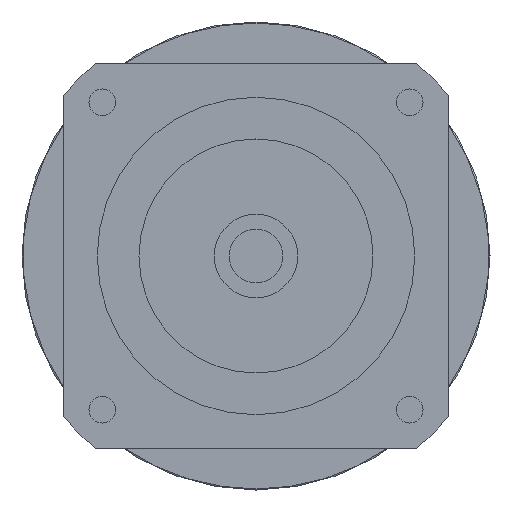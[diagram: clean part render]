
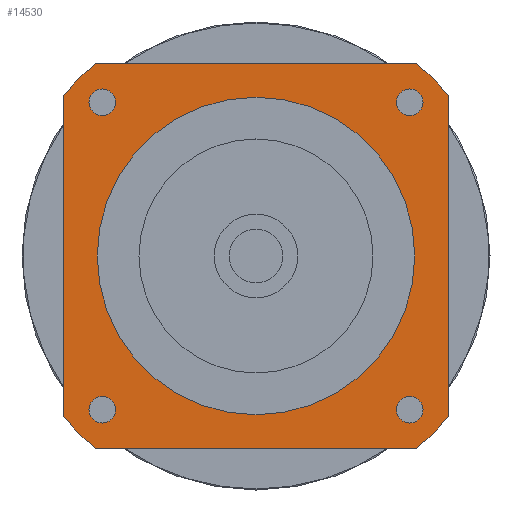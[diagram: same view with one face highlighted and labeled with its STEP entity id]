
A CAD part, left-side view. The second image highlights one B-rep face of the part: STEP entity #14530.
In plain terms, the highlighted planar face has unit normal (-1, 0, 0) as drawn and (0, 0, -1) by its records, which use the part's own axes.
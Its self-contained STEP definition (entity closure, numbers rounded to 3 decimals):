
#12330=CARTESIAN_POINT('',(57.5,48.153,-59.7));
#12340=VERTEX_POINT('',#12330);
#12370=CARTESIAN_POINT('',(57.5,57.5,-59.7));
#12380=DIRECTION('',(0.,-1.,0.));
#12390=VECTOR('',#12380,1000.);
#12400=LINE('',#12370,#12390);
#12410=CARTESIAN_POINT('',(57.5,-48.153,-59.7));
#12420=VERTEX_POINT('',#12410);
#12430=EDGE_CURVE('',#12340,#12420,#12400,.T.);
#12640=CARTESIAN_POINT('',(48.153,57.5,-59.7));
#12650=VERTEX_POINT('',#12640);
#12680=CARTESIAN_POINT('',(0.,0.,
-59.7));
#12690=DIRECTION('',(0.,0.,-1.));
#12700=DIRECTION('',(1.,0.,0.));
#12710=AXIS2_PLACEMENT_3D('',#12680,#12690,#12700);
#12720=CIRCLE('',#12710,75.);
#12730=EDGE_CURVE('',#12650,#12340,#12720,.T.);
#12910=CARTESIAN_POINT('',(48.153,-57.5,-59.7));
#12920=VERTEX_POINT('',#12910);
#12950=CARTESIAN_POINT('',(57.5,-57.5,-59.7));
#12960=DIRECTION('',(-1.,0.,0.));
#12970=VECTOR('',#12960,1000.);
#12980=LINE('',#12950,#12970);
#12990=CARTESIAN_POINT('',(-48.153,-57.5,-59.7));
#13000=VERTEX_POINT('',#12990);
#13010=EDGE_CURVE('',#12920,#13000,#12980,.T.);
#13190=CARTESIAN_POINT('',(0.,0.,
-59.7));
#13200=DIRECTION('',(0.,0.,-1.));
#13210=DIRECTION('',(1.,0.,0.));
#13220=AXIS2_PLACEMENT_3D('',#13190,#13200,#13210);
#13230=CIRCLE('',#13220,75.);
#13240=EDGE_CURVE('',#12420,#12920,#13230,.T.);
#13310=CARTESIAN_POINT('',(57.5,57.5,-59.7));
#13320=DIRECTION('',(0.,0.,-1.));
#13330=DIRECTION('',(1.,0.,0.));
#13340=AXIS2_PLACEMENT_3D('',#13310,#13320,#13330);
#13350=PLANE('',#13340);
#13360=CARTESIAN_POINT('',(-45.962,45.962,-59.7));
#13370=DIRECTION('',(0.,0.,-1.));
#13380=DIRECTION('',(-1.,0.,0.));
#13390=AXIS2_PLACEMENT_3D('',#13360,#13370,#13380);
#13400=CIRCLE('',#13390,4.);
#13410=CARTESIAN_POINT('',(-49.962,45.962,-59.7));
#13420=VERTEX_POINT('',#13410);
#13430=CARTESIAN_POINT('',(-41.962,45.962,-59.7));
#13440=VERTEX_POINT('',#13430);
#13450=EDGE_CURVE('',#13420,#13440,#13400,.T.);
#13460=ORIENTED_EDGE('',*,*,#13450,.F.);
#13470=EDGE_CURVE('',#13440,#13420,#13400,.T.);
#13480=ORIENTED_EDGE('',*,*,#13470,.F.);
#13490=EDGE_LOOP('',(#13480,#13460));
#13500=FACE_BOUND('',#13490,.T.);
#13510=CARTESIAN_POINT('',(45.962,45.962,-59.7));
#13520=DIRECTION('',(0.,0.,-1.));
#13530=DIRECTION('',(0.,1.,0.));
#13540=AXIS2_PLACEMENT_3D('',#13510,#13520,#13530);
#13550=CIRCLE('',#13540,4.);
#13560=CARTESIAN_POINT('',(45.962,49.962,-59.7));
#13570=VERTEX_POINT('',#13560);
#13580=CARTESIAN_POINT('',(45.962,41.962,-59.7));
#13590=VERTEX_POINT('',#13580);
#13600=EDGE_CURVE('',#13570,#13590,#13550,.T.);
#13610=ORIENTED_EDGE('',*,*,#13600,.F.);
#13620=EDGE_CURVE('',#13590,#13570,#13550,.T.);
#13630=ORIENTED_EDGE('',*,*,#13620,.F.);
#13640=EDGE_LOOP('',(#13630,#13610));
#13650=FACE_BOUND('',#13640,.T.);
#13660=CARTESIAN_POINT('',(0.,0.,
-59.7));
#13670=DIRECTION('',(0.,0.,1.));
#13680=DIRECTION('',(0.,1.,0.));
#13690=AXIS2_PLACEMENT_3D('',#13660,#13670,#13680);
#13700=CIRCLE('',#13690,47.5);
#13710=CARTESIAN_POINT('',(-47.5,0.,-59.7));
#13720=VERTEX_POINT('',#13710);
#13730=CARTESIAN_POINT('',(47.5,0.,-59.7));
#13740=VERTEX_POINT('',#13730);
#13750=EDGE_CURVE('',#13720,#13740,#13700,.T.);
#13760=ORIENTED_EDGE('',*,*,#13750,.T.);
#13770=CARTESIAN_POINT('',(0.,47.5,-59.7));
#13780=VERTEX_POINT('',#13770);
#13790=EDGE_CURVE('',#13780,#13720,#13700,.T.);
#13800=ORIENTED_EDGE('',*,*,#13790,.T.);
#13810=EDGE_CURVE('',#13740,#13780,#13700,.T.);
#13820=ORIENTED_EDGE('',*,*,#13810,.T.);
#13830=EDGE_LOOP('',(#13820,#13800,#13760));
#13840=FACE_BOUND('',#13830,.T.);
#13850=CARTESIAN_POINT('',(45.962,-45.962,-59.7));
#13860=DIRECTION('',(0.,0.,-1.));
#13870=DIRECTION('',(1.,0.,0.));
#13880=AXIS2_PLACEMENT_3D('',#13850,#13860,#13870);
#13890=CIRCLE('',#13880,4.);
#13900=CARTESIAN_POINT('',(49.962,-45.962,-59.7));
#13910=VERTEX_POINT('',#13900);
#13920=CARTESIAN_POINT('',(41.962,-45.962,-59.7));
#13930=VERTEX_POINT('',#13920);
#13940=EDGE_CURVE('',#13910,#13930,#13890,.T.);
#13950=ORIENTED_EDGE('',*,*,#13940,.F.);
#13960=EDGE_CURVE('',#13930,#13910,#13890,.T.);
#13970=ORIENTED_EDGE('',*,*,#13960,.F.);
#13980=EDGE_LOOP('',(#13970,#13950));
#13990=FACE_BOUND('',#13980,.T.);
#14000=CARTESIAN_POINT('',(-45.962,-45.962,-59.7));
#14010=DIRECTION('',(0.,0.,-1.));
#14020=DIRECTION('',(0.,-1.,0.));
#14030=AXIS2_PLACEMENT_3D('',#14000,#14010,#14020);
#14040=CIRCLE('',#14030,4.);
#14050=CARTESIAN_POINT('',(-45.962,-49.962,-59.7));
#14060=VERTEX_POINT('',#14050);
#14070=CARTESIAN_POINT('',(-45.962,-41.962,-59.7));
#14080=VERTEX_POINT('',#14070);
#14090=EDGE_CURVE('',#14060,#14080,#14040,.T.);
#14100=ORIENTED_EDGE('',*,*,#14090,.F.);
#14110=EDGE_CURVE('',#14080,#14060,#14040,.T.);
#14120=ORIENTED_EDGE('',*,*,#14110,.F.);
#14130=EDGE_LOOP('',(#14120,#14100));
#14140=FACE_BOUND('',#14130,.T.);
#14150=CARTESIAN_POINT('',(-57.5,57.5,-59.7));
#14160=DIRECTION('',(1.,0.,0.));
#14170=VECTOR('',#14160,1000.);
#14180=LINE('',#14150,#14170);
#14190=CARTESIAN_POINT('',(-48.153,57.5,-59.7));
#14200=VERTEX_POINT('',#14190);
#14210=EDGE_CURVE('',#14200,#12650,#14180,.T.);
#14220=ORIENTED_EDGE('',*,*,#14210,.T.);
#14230=CARTESIAN_POINT('',(0.,0.,
-59.7));
#14240=DIRECTION('',(0.,0.,-1.));
#14250=DIRECTION('',(1.,0.,0.));
#14260=AXIS2_PLACEMENT_3D('',#14230,#14240,#14250);
#14270=CIRCLE('',#14260,75.);
#14280=CARTESIAN_POINT('',(-57.5,48.153,-59.7));
#14290=VERTEX_POINT('',#14280);
#14300=EDGE_CURVE('',#14290,#14200,#14270,.T.);
#14310=ORIENTED_EDGE('',*,*,#14300,.T.);
#14320=CARTESIAN_POINT('',(-57.5,-57.5,-59.7));
#14330=DIRECTION('',(0.,1.,0.));
#14340=VECTOR('',#14330,1000.);
#14350=LINE('',#14320,#14340);
#14360=CARTESIAN_POINT('',(-57.5,-48.153,-59.7));
#14370=VERTEX_POINT('',#14360);
#14380=EDGE_CURVE('',#14370,#14290,#14350,.T.);
#14390=ORIENTED_EDGE('',*,*,#14380,.T.);
#14400=CARTESIAN_POINT('',(0.,0.,
-59.7));
#14410=DIRECTION('',(0.,0.,-1.));
#14420=DIRECTION('',(1.,0.,0.));
#14430=AXIS2_PLACEMENT_3D('',#14400,#14410,#14420);
#14440=CIRCLE('',#14430,75.);
#14450=EDGE_CURVE('',#13000,#14370,#14440,.T.);
#14460=ORIENTED_EDGE('',*,*,#14450,.T.);
#14470=ORIENTED_EDGE('',*,*,#13010,.T.);
#14480=ORIENTED_EDGE('',*,*,#13240,.T.);
#14490=ORIENTED_EDGE('',*,*,#12430,.T.);
#14500=ORIENTED_EDGE('',*,*,#12730,.T.);
#14510=EDGE_LOOP('',(#14500,#14490,#14480,#14470,#14460,#14390,#14310,
#14220));
#14520=FACE_OUTER_BOUND('',#14510,.T.);
#14530=ADVANCED_FACE('',(#13500,#13650,#13840,#13990,#14140,#14520),
#13350,.T.);
